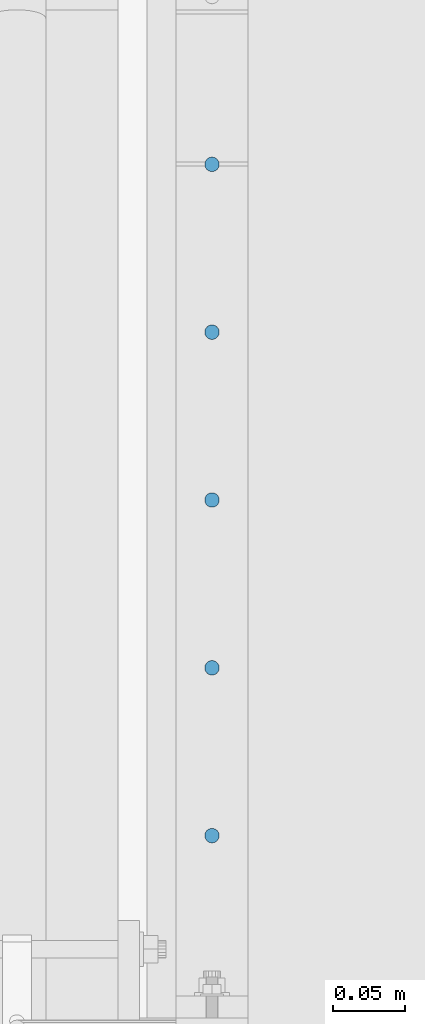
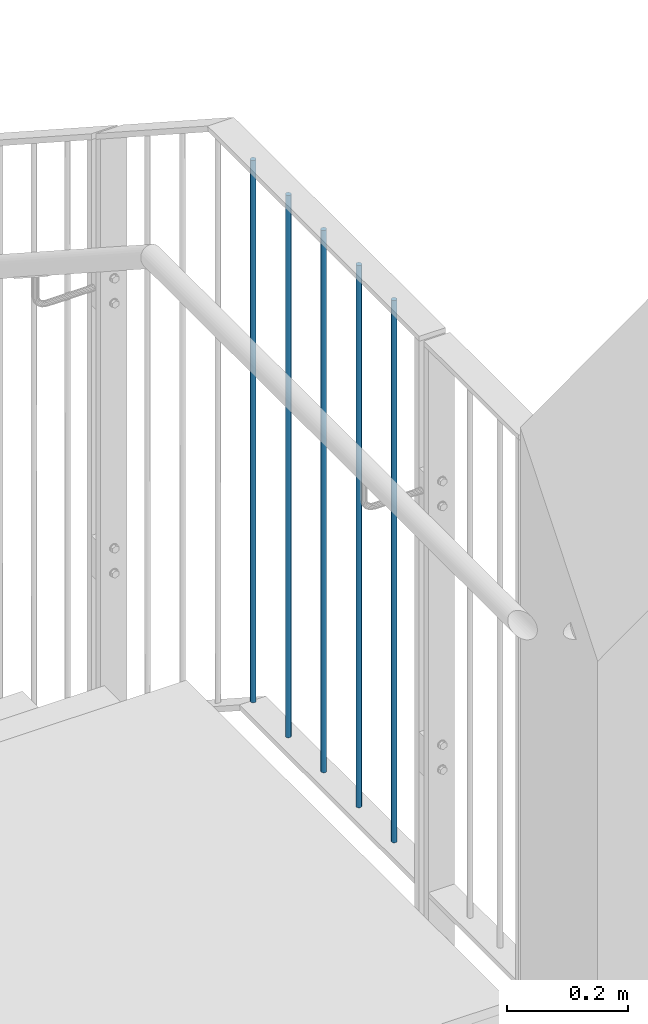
# One storey, part 30 of 296: 5 columns.
"""IFC2X3 building model written with IfcOpenShell, lengths in millimetres."""

from ifc_helpers import new_model, entity, si_unit, converted_unit, frame, origin, origin_with_axes, origin_2d, place, context, project, spatial, circle, extrude, material, element, save


model = new_model("IFC2X3")

# Units and contexts
model_context = context("Model", 3, precision=1e-09, world=origin_with_axes())
ifc_project = project(units=[si_unit("LENGTHUNIT", "METRE", prefix="MILLI"), si_unit("AREAUNIT", "SQUARE_METRE"), si_unit("VOLUMEUNIT", "CUBIC_METRE"), converted_unit("PLANEANGLEUNIT", "DEGREE", entity("IfcPlaneAngleMeasure", 0.01745329), si_unit("PLANEANGLEUNIT", "RADIAN"), dimensions=[0, 0, 0, 0, 0, 0, 0])], contexts=[model_context])

# Site, building, storey
site_placement = place(None, origin_with_axes())
site = spatial("IfcSite", under=ifc_project, at=site_placement, Name="TZD-S?d | Treppenhausgel?nder", CompositionType="ELEMENT")
building_placement = place(site_placement, origin_with_axes())
building = spatial("IfcBuilding", under=site, at=building_placement, Name="Struktur 1", CompositionType="ELEMENT")
storey_placement = place(building_placement, origin_with_axes())
storey = spatial("IfcBuildingStorey", under=building, at=storey_placement, Name="Default Storey", CompositionType="ELEMENT", Elevation=0.0)

# Columns
ifc_material = material(Name="S235JR")
for number, where, z_axis, x_axis in (
    (1, (5894.999, -3281.3888889, 13650.0), (0.0, 0.0, -1.0), (0.0, 1.0, 0.0)),
    (2, (5894.999, -3165.2777778, 13650.0), (0.0, 0.0, -1.0), (0.0, 1.0, 0.0)),
    (3, (5894.999, -3049.1666667, 13650.0), (0.0, 0.0, -1.0), (0.0, 1.0, 0.0)),
    (4, (5894.999, -2933.0555556, 13650.0), (0.0, 0.0, -1.0), (0.0, 1.0, 0.0)),
    (5, (5894.999, -2816.9444445, 13650.0), (0.0, 0.0, -1.0), (0.0, 1.0, 0.0)),
):
    element("IfcColumn", number, at=place(None, frame(where, z_axis=z_axis, x_axis=x_axis)), inside=storey, material=ifc_material, Name="-", ObjectType="-", context=model_context, shape_type="SweptSolid", body=[
        extrude(circle(Radius=5.0, at=origin_2d()), origin(), (0.0, 0.0, -1.0), 1090.0),
    ])

save(model, "model.ifc")
